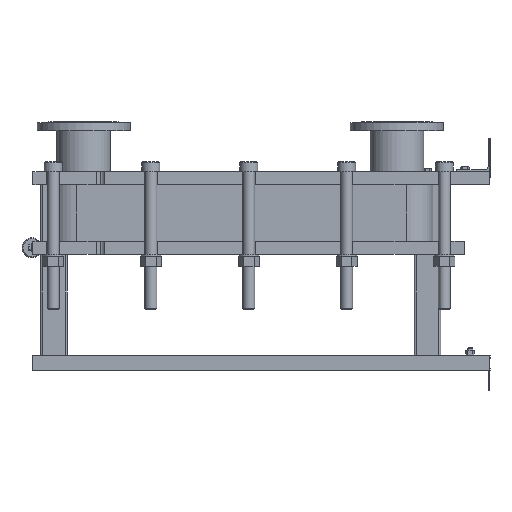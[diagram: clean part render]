
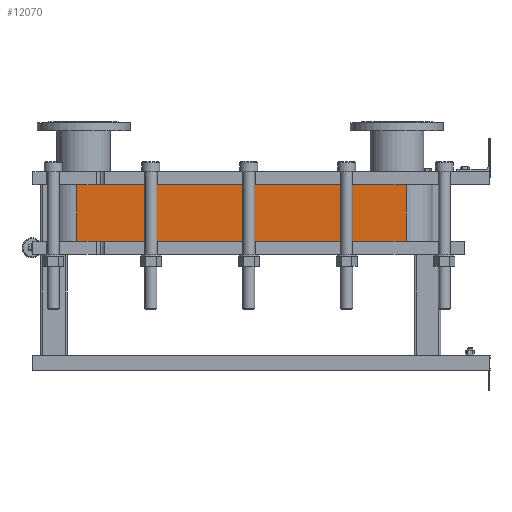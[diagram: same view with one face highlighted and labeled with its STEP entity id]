
A CAD part, left-side view. The second image highlights one B-rep face of the part: STEP entity #12070.
In plain terms, the highlighted planar face has unit normal (-1, 0, 0).
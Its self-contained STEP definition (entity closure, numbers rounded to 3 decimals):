
#1064=LINE('',#21140,#2164);
#1065=LINE('',#21144,#2165);
#1066=LINE('',#21146,#2166);
#1067=LINE('',#21147,#2167);
#2164=VECTOR('',#15790,10.);
#2165=VECTOR('',#15795,10.);
#2166=VECTOR('',#15796,10.);
#2167=VECTOR('',#15797,10.);
#3304=FACE_OUTER_BOUND('',#4091,.T.);
#4091=EDGE_LOOP('',(#9793,#9794,#9795,#9796));
#5677=VERTEX_POINT('',#21137);
#5678=VERTEX_POINT('',#21139);
#5679=VERTEX_POINT('',#21143);
#5680=VERTEX_POINT('',#21145);
#7118=EDGE_CURVE('',#5678,#5677,#1064,.T.);
#7120=EDGE_CURVE('',#5677,#5679,#1065,.T.);
#7121=EDGE_CURVE('',#5680,#5679,#1066,.T.);
#7122=EDGE_CURVE('',#5680,#5678,#1067,.T.);
#9793=ORIENTED_EDGE('',*,*,#7120,.T.);
#9794=ORIENTED_EDGE('',*,*,#7121,.F.);
#9795=ORIENTED_EDGE('',*,*,#7122,.T.);
#9796=ORIENTED_EDGE('',*,*,#7118,.T.);
#11441=PLANE('',#13191);
#12070=ADVANCED_FACE('',(#3304),#11441,.T.);
#13191=AXIS2_PLACEMENT_3D('',#21142,#15793,#15794);
#15790=DIRECTION('',(0.,0.,-1.));
#15793=DIRECTION('center_axis',(-1.,0.,0.));
#15794=DIRECTION('ref_axis',(0.,1.,0.));
#15795=DIRECTION('',(0.,-1.,0.));
#15796=DIRECTION('',(0.,0.,-1.));
#15797=DIRECTION('',(0.,1.,0.));
#21137=CARTESIAN_POINT('',(-248.152,1243.818,-169.05));
#21139=CARTESIAN_POINT('',(-248.152,1243.818,0.));
#21140=CARTESIAN_POINT('',(-248.152,1243.818,0.));
#21142=CARTESIAN_POINT('Origin',(-248.152,251.818,0.));
#21143=CARTESIAN_POINT('',(-248.152,251.818,-169.05));
#21144=CARTESIAN_POINT('',(-248.152,499.818,-169.05));
#21145=CARTESIAN_POINT('',(-248.152,251.818,0.));
#21146=CARTESIAN_POINT('',(-248.152,251.818,0.));
#21147=CARTESIAN_POINT('',(-248.152,251.818,0.));
